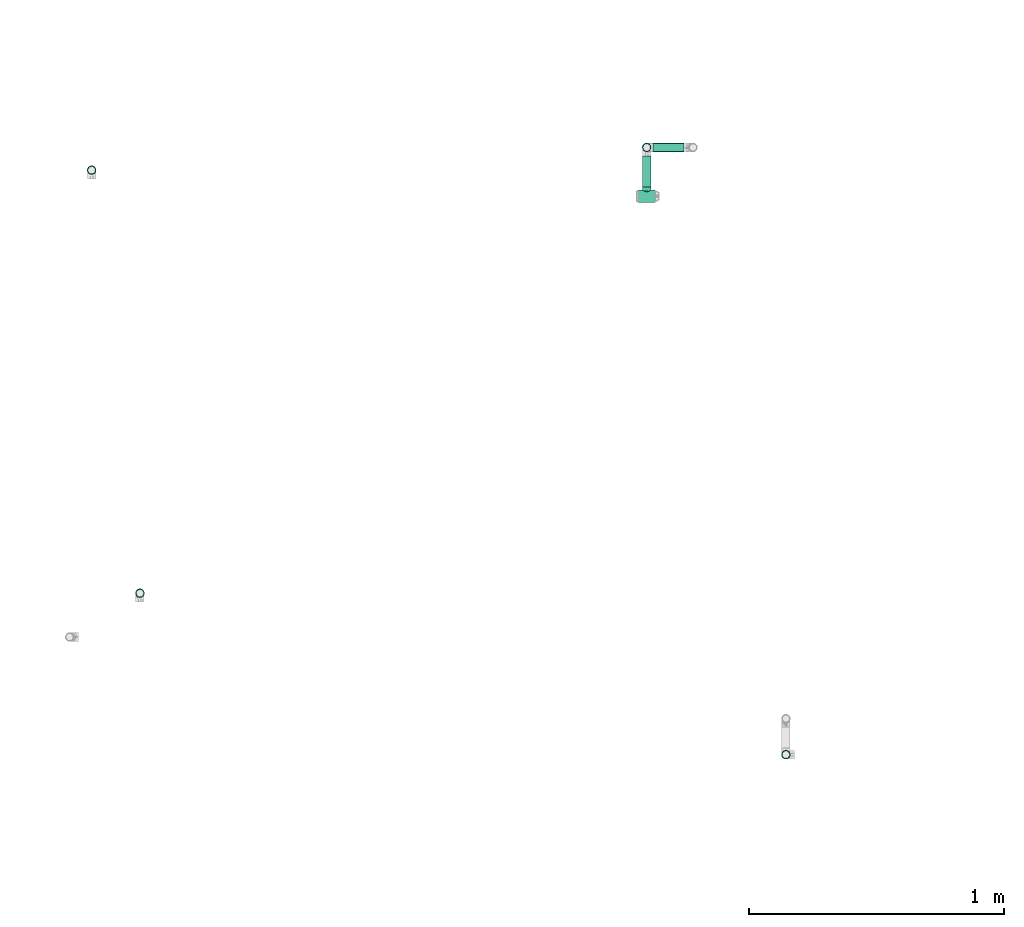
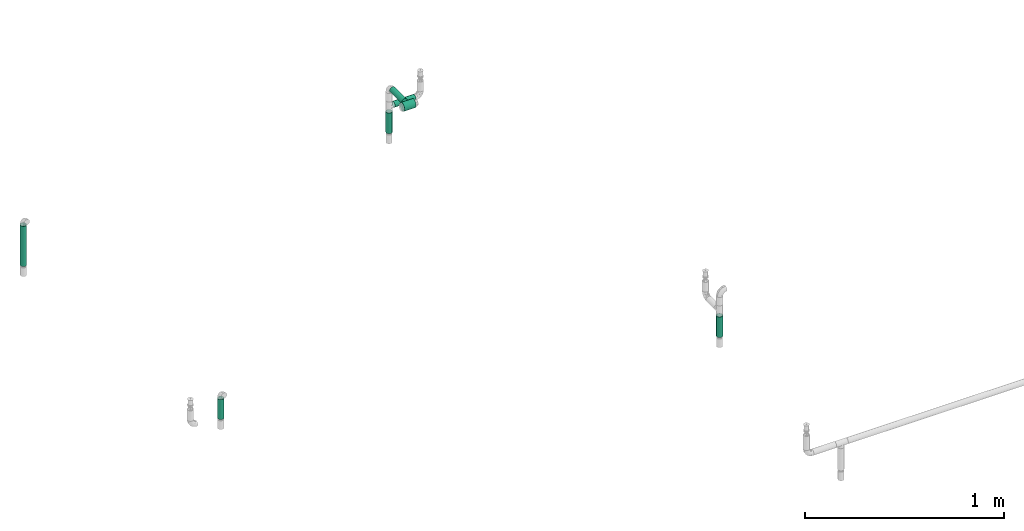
# One storey, part 22 of 157: 6 flow segments, 1 flow fitting.
"""IFC2X3 building model written with IfcOpenShell, lengths in millimetres."""

from ifc_helpers import new_model, entity, si_unit, converted_unit, derived_unit, direction, frame, origin_with_axes, origin_2d_with_axis, place, context, subcontext, project, spatial, hollow_circle, extrude, open_shell, surface_model, source, transform, mapped, type_object, element, save


model = new_model("IFC2X3")

# Units and contexts
model_context = context("Model", 3, precision=0.01, world=frame((0.0, 4.29681676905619e-09, 0.0)), true_north=direction((4.01073788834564e-13, 1.0)))
plan_context = context("Plan", 3, precision=0.01, world=frame((0.0, 4.29681676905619e-09, 0.0)), true_north=direction((4.01073788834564e-13, 1.0)))
body_context = subcontext(model_context, "Body", "Model", "MODEL_VIEW")
ifc_project = project(units=[converted_unit("PLANEANGLEUNIT", "DEGREE", entity("IfcPositiveLengthMeasure", 0.0174532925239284), si_unit("PLANEANGLEUNIT", "RADIAN"), dimensions=[0, 0, 0, 0, 0, 0, 0]), si_unit("AREAUNIT", "SQUARE_METRE"), si_unit("LENGTHUNIT", "METRE", prefix="MILLI"), si_unit("MASSUNIT", "GRAM", prefix="KILO"), si_unit("POWERUNIT", "WATT"), si_unit("PRESSUREUNIT", "PASCAL"), si_unit("FORCEUNIT", "NEWTON", prefix="KILO"), si_unit("ELECTRICCURRENTUNIT", "AMPERE"), si_unit("THERMODYNAMICTEMPERATUREUNIT", "DEGREE_CELSIUS"), si_unit("TIMEUNIT", "SECOND"), si_unit("VOLUMEUNIT", "CUBIC_METRE"), derived_unit("LINEARVELOCITYUNIT", [(si_unit("LENGTHUNIT", "METRE"), 1), (si_unit("TIMEUNIT", "SECOND"), -1)]), derived_unit("VOLUMETRICFLOWRATEUNIT", [(si_unit("VOLUMEUNIT", "CUBIC_METRE"), 1), (si_unit("TIMEUNIT", "SECOND"), -1)]), derived_unit("THERMALTRANSMITTANCEUNIT", [(si_unit("POWERUNIT", "WATT"), 1), (si_unit("THERMODYNAMICTEMPERATUREUNIT", "KELVIN"), -1), (si_unit("AREAUNIT", "SQUARE_METRE"), -1)])], contexts=[model_context, plan_context])

# Site, building, storey
site_placement = place(None, frame((0.0, -4.29681676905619e-09, 0.0), z_axis=(0.0, 0.0, 1.0), x_axis=(1.0, 0.0, 0.0)))
site = spatial("IfcSite", under=ifc_project, at=site_placement, CompositionType="ELEMENT")
building_placement = place(site_placement, frame((0.0, 4.29681676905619e-09, 0.0), z_axis=(0.0, 0.0, 1.0), x_axis=(1.0, 0.0, 0.0)))
building = spatial("IfcBuilding", under=site, at=building_placement, Name="mc-building", CompositionType="ELEMENT")
storey_placement = place(building_placement, frame((0.0, 0.0, 204000.0), z_axis=(0.0, 0.0, 1.0), x_axis=(1.0, 0.0, 0.0)))
storey = spatial("IfcBuildingStorey", under=building, at=storey_placement, Name="Nivå D", CompositionType="ELEMENT", Elevation=204000.0)

# Flow fitting
pipe_fitting_type = type_object("IfcPipeFittingType", Name="magi_pipe_fe_tee_centric_90_NOR", PredefinedType="JUNCTION")
shared_shape_1 = source(origin_with_axes(), body_context, "Body", "SurfaceModel", [
    surface_model("IfcShellBasedSurfaceModel", [(-33.8, 0.0, -24.2), (-33.8, -6.26342, -23.37541), (-33.8, 6.26342, -23.37541), (-33.8, 12.1, -20.95781), (-33.8, 17.11198, -17.11198), (-33.8, 20.95781, -12.1), (-33.8, -23.37541, -6.26342), (-33.8, 23.37541, -6.26342), (-33.8, -17.11198, -17.11198), (-33.8, -20.95781, -12.1), (-33.8, -12.1, -20.95781), (-33.8, -24.2, 0.0), (-33.8, -23.37541, 6.26342), (-33.8, 20.95781, 12.1), (-33.8, 23.37541, 6.26342), (-33.8, 24.2, 0.0), (-33.8, 12.1, 20.95781), (-33.8, 17.11198, 17.11198), (-33.8, -17.11198, 17.11198), (-33.8, 6.26342, 23.37541), (-33.8, -20.95781, 12.1), (-33.8, -12.1, 20.95781), (-33.8, -6.26342, 23.37541), (-33.8, 0.0, 24.2), (33.8, 6.26342, -23.37541), (33.8, -6.26342, -23.37541), (33.8, 0.0, -24.2), (33.8, 17.11198, -17.11198), (33.8, 12.1, -20.95781), (33.8, -23.37541, -6.26342), (33.8, 20.95781, -12.1), (33.8, 23.37541, -6.26342), (33.8, -17.11198, -17.11198), (33.8, -12.1, -20.95781), (33.8, -20.95781, -12.1), (33.8, -24.2, 0.0), (33.8, 24.2, 0.0), (33.8, 23.37541, 6.26342), (33.8, 20.95781, 12.1), (33.8, -23.37541, 6.26342), (33.8, -17.11198, 17.11198), (33.8, 12.1, 20.95781), (33.8, 17.11198, 17.11198), (33.8, 6.26342, 23.37541), (33.8, -20.95781, 12.1), (33.8, -12.1, 20.95781), (33.8, 0.0, 24.2), (33.8, -6.26342, 23.37541), (15.81824, -23.45734, 5.94922), (16.9, -24.2, 0.0), (12.87025, -21.57947, 10.95293), (33.8, -19.0349, 14.60599), (8.52813, -19.30697, 14.59044), (3.03527, -17.5853, 16.6252), (-3.04044, -17.58619, 16.62425), (-8.52961, -19.30762, 14.58958), (-33.8, -19.0349, 14.60599), (-16.9, -24.2, 0.0), (-15.81885, -23.45775, 5.9476), (-12.87368, -21.58151, 10.9489), (3.03527, -17.5853, -16.6252), (33.8, -19.0349, -14.60599), (8.52813, -19.30697, -14.59044), (-8.52961, -19.30762, -14.58958), (-33.8, -19.0349, -14.60599), (12.87025, -21.57947, -10.95293), (-3.04044, -17.58619, -16.62425), (15.81824, -23.45734, -5.94922), (-12.87368, -21.58151, -10.9489), (-15.81885, -23.45775, -5.9476), (4.37404, -36.3, -16.32415), (-16.9, -36.3, 0.0), (0.0, -36.3, -16.9), (14.63583, -36.3, -8.45), (8.45, -36.3, -14.63583), (16.32415, -36.3, -4.37404), (11.9501, -36.3, -11.9501), (-11.9501, -36.3, -11.9501), (-8.45, -36.3, -14.63583), (-4.37404, -36.3, -16.32415), (-14.63583, -36.3, -8.45), (-16.32415, -36.3, -4.37404), (16.9, -36.3, 0.0), (8.45, -36.3, 14.63583), (16.32415, -36.3, 4.37404), (14.63583, -36.3, 8.45), (-8.45, -36.3, 14.63583), (11.9501, -36.3, 11.9501), (4.37404, -36.3, 16.32415), (-16.32415, -36.3, 4.37404), (-11.9501, -36.3, 11.9501), (-14.63583, -36.3, 8.45), (0.0, -36.3, 16.9), (-4.37404, -36.3, 16.32415), (-16.35943, -23.82888, 2.9738), (16.35912, -23.82867, 2.97461), (-0.00259, -17.58575, 16.62472), (16.35912, -23.82867, -2.97461), (-0.00259, -17.58575, -16.62472), (-16.35943, -23.82888, -2.9738)], [open_shell([[[0, 1, 2]], [[3, 2, 4]], [[5, 2, 6]], [[4, 2, 5]], [[7, 5, 6]], [[8, 9, 10]], [[1, 10, 9]], [[1, 9, 2]], [[9, 6, 2]], [[6, 11, 7]], [[11, 12, 7]], [[13, 14, 15]], [[13, 15, 12]], [[16, 17, 18]], [[12, 17, 13]], [[19, 16, 18]], [[20, 18, 12]], [[18, 17, 12]], [[21, 22, 18]], [[23, 18, 22]], [[18, 23, 19]], [[7, 12, 15]], [[24, 25, 26]], [[27, 24, 28]], [[29, 24, 30]], [[30, 24, 27]], [[29, 30, 31]], [[25, 32, 33]], [[32, 25, 34]], [[24, 34, 25]], [[24, 29, 34]], [[31, 35, 29]], [[31, 36, 35]], [[36, 37, 38]], [[39, 36, 38]], [[40, 38, 41]], [[41, 38, 42]], [[40, 41, 43]], [[39, 40, 44]], [[39, 38, 40]], [[45, 46, 47]], [[46, 45, 40]], [[43, 46, 40]], [[36, 39, 35]], [[35, 39, 48]], [[48, 49, 35]], [[39, 50, 48]], [[51, 40, 52]], [[52, 50, 44]], [[53, 52, 40]], [[54, 53, 21]], [[44, 50, 39]], [[55, 18, 56]], [[57, 58, 11]], [[12, 11, 58]], [[58, 59, 12]], [[55, 54, 18]], [[55, 20, 59]], [[20, 55, 56]], [[59, 20, 12]], [[18, 54, 21]], [[52, 44, 51]], [[53, 40, 45]], [[23, 47, 46]], [[22, 45, 47]], [[19, 46, 43]], [[38, 37, 14]], [[17, 41, 42]], [[13, 42, 38]], [[43, 41, 16]], [[15, 37, 36]], [[21, 45, 22]], [[22, 47, 23]], [[19, 23, 46]], [[43, 16, 19]], [[16, 41, 17]], [[13, 17, 42]], [[14, 13, 38]], [[37, 15, 14]], [[45, 21, 53]], [[5, 31, 30]], [[7, 36, 31]], [[4, 30, 27]], [[26, 25, 1]], [[2, 28, 24]], [[0, 24, 26]], [[27, 28, 3]], [[10, 25, 33]], [[15, 36, 7]], [[7, 31, 5]], [[4, 5, 30]], [[27, 3, 4]], [[3, 28, 2]], [[0, 2, 24]], [[1, 0, 26]], [[25, 10, 1]], [[33, 60, 10]], [[61, 34, 62]], [[63, 9, 64]], [[62, 60, 32]], [[34, 65, 62]], [[66, 10, 60]], [[29, 35, 67]], [[67, 65, 29]], [[49, 67, 35]], [[29, 65, 34]], [[66, 63, 8]], [[62, 32, 61]], [[64, 8, 63]], [[63, 68, 9]], [[8, 10, 66]], [[68, 69, 6]], [[69, 11, 6]], [[11, 69, 57]], [[68, 6, 9]], [[60, 33, 32]], [[70, 71, 72]], [[73, 70, 74]], [[73, 75, 70]], [[73, 74, 76]], [[71, 70, 75]], [[72, 77, 78]], [[78, 79, 72]], [[80, 71, 81]], [[77, 72, 80]], [[71, 80, 72]], [[75, 82, 71]], [[83, 82, 84]], [[83, 84, 85]], [[86, 71, 83]], [[83, 85, 87]], [[86, 83, 88]], [[89, 90, 91]], [[90, 89, 86]], [[86, 92, 93]], [[89, 71, 86]], [[88, 92, 86]], [[83, 71, 82]], [[89, 94, 71]], [[59, 91, 90]], [[89, 91, 58]], [[90, 86, 55]], [[89, 58, 94]], [[94, 57, 71]], [[58, 91, 59]], [[95, 48, 84]], [[55, 93, 54]], [[55, 59, 90]], [[92, 53, 96]], [[55, 86, 93]], [[53, 92, 88]], [[83, 52, 88]], [[87, 85, 50]], [[87, 52, 83]], [[48, 85, 84]], [[87, 50, 52]], [[52, 53, 88]], [[82, 95, 84]], [[48, 50, 85]], [[95, 82, 49]], [[92, 54, 93]], [[96, 54, 92]], [[75, 97, 82]], [[65, 73, 76]], [[75, 73, 67]], [[76, 74, 62]], [[97, 49, 82]], [[67, 73, 65]], [[62, 70, 60]], [[62, 65, 76]], [[72, 66, 98]], [[62, 74, 70]], [[99, 71, 57]], [[99, 69, 81]], [[75, 67, 97]], [[79, 66, 72]], [[69, 80, 81]], [[77, 80, 68]], [[72, 60, 70]], [[79, 63, 66]], [[63, 79, 78]], [[78, 77, 63]], [[63, 77, 68]], [[68, 80, 69]], [[71, 99, 81]], [[98, 60, 72]]])]),
])
flow_fitting_placement = place(storey_placement, frame((518009.38219, 420106.68371, 2690.0), z_axis=(0.0, 0.0, 1.0), x_axis=(-1.0, 0.0, 0.0)))
element("IfcFlowFitting", 1, at=flow_fitting_placement, inside=storey, type_object=pipe_fitting_type, Name="magi_pipe_fe_tee_centric_90_NOR", context=body_context, shape_type="MappedRepresentation", body=[
    mapped(shared_shape_1, transform((0.0, 0.0, 0.0), scale=1.0)),
])

# Flow segments
pipe_segment_type = type_object("IfcPipeSegmentType", Name="Stålrør normaltykke", PredefinedType="RIGIDSEGMENT")
shared_shape_2 = source(origin_with_axes(), body_context, "Body", "SweptSolid", [
    extrude(hollow_circle(Radius=16.9, WallThickness=2.0, at=origin_2d_with_axis()), frame((0.0, 0.0, 0.0), z_axis=(1.0, 0.0, 0.0), x_axis=(0.0, 1.0, 0.0)), (0.0, 0.0, 1.0), 247.3),
])
flow_segment_1_placement = place(storey_placement, frame((515833.78292, 420208.84509, 2409.35200000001), z_axis=(0.0, 1.0, 0.0), x_axis=(0.0, 0.0, 1.0)))
element("IfcFlowSegment", 2, at=flow_segment_1_placement, inside=storey, type_object=pipe_segment_type, Name="Stålrør normaltykke", context=body_context, shape_type="MappedRepresentation", body=[
    mapped(shared_shape_2, transform((0.0, 0.0, 0.0), scale=1.0)),
])
shared_shape_3 = source(origin_with_axes(), body_context, "Body", "SweptSolid", [
    extrude(hollow_circle(Radius=16.9, WallThickness=2.0, at=origin_2d_with_axis()), frame((0.0, 0.0, 0.0), z_axis=(1.0, 0.0, 0.0), x_axis=(0.0, 1.0, 0.0)), (0.0, 0.0, 1.0), 126.8),
])
for number, where, z_axis, x_axis in (
    (3, (518009.38219, 420297.85762, 2536.20000000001), (1.0, 0.0, 0.0), (0.0, 0.0, -1.0)),
    (4, (518554.95218, 417917.85762, 2409.35200000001), (0.0, 1.0, 0.0), (0.0, 0.0, 1.0)),
):
    element("IfcFlowSegment", number, at=place(storey_placement, frame(where, z_axis=z_axis, x_axis=x_axis)), inside=storey, type_object=pipe_segment_type, Name="Stålrør normaltykke", context=body_context, shape_type="MappedRepresentation", body=[
        mapped(shared_shape_3, transform((0.0, 0.0, 0.0), scale=1.0)),
    ])
shared_shape_4 = source(origin_with_axes(), body_context, "Body", "SweptSolid", [
    extrude(hollow_circle(Radius=16.9, WallThickness=2.0, at=origin_2d_with_axis()), frame((0.0, 0.0, 0.0), z_axis=(1.0, 0.0, 0.0), x_axis=(0.0, 1.0, 0.0)), (0.0, 0.0, 1.0), 121.8),
])
for number, where, z_axis, x_axis in (
    (5, (516023.00602, 418550.71124, 2409.35200000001), (1.0, 0.0, 0.0), (0.0, 0.0, 1.0)),
    (6, (518034.73219, 420297.85762, 2570.0), (0.0, 0.0, 1.0), (1.0, 0.0, 0.0)),
):
    element("IfcFlowSegment", number, at=place(storey_placement, frame(where, z_axis=z_axis, x_axis=x_axis)), inside=storey, type_object=pipe_segment_type, Name="Stålrør normaltykke", context=body_context, shape_type="MappedRepresentation", body=[
        mapped(shared_shape_4, transform((0.0, 0.0, 0.0), scale=1.0)),
    ])
shared_shape_5 = source(origin_with_axes(), body_context, "Body", "SweptSolid", [
    extrude(hollow_circle(Radius=16.9, WallThickness=2.0, at=origin_2d_with_axis()), frame((0.0, 0.0, 0.0), z_axis=(1.0, 0.0, 0.0), x_axis=(0.0, 1.0, 0.0)), (0.0, 0.0, 1.0), 121.1),
])
flow_segment_2_placement = place(storey_placement, frame((518009.38219, 420142.98371, 2690.0), z_axis=(0.0, 0.0, 1.0), x_axis=(0.0, 1.0, 0.0)))
element("IfcFlowSegment", 7, at=flow_segment_2_placement, inside=storey, type_object=pipe_segment_type, Name="Stålrør normaltykke", context=body_context, shape_type="MappedRepresentation", body=[
    mapped(shared_shape_5, transform((0.0, 0.0, 0.0), scale=1.0)),
])

save(model, "model.ifc")
